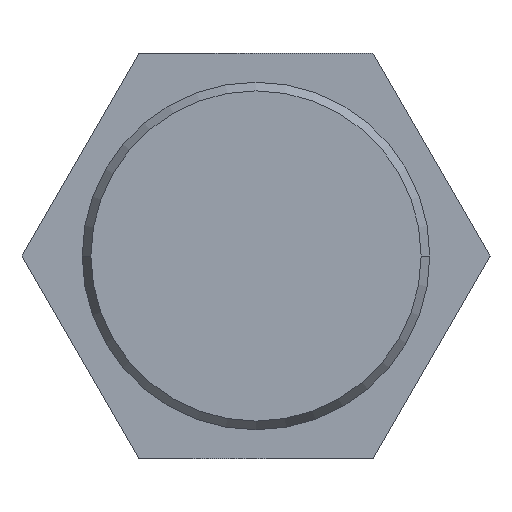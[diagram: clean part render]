
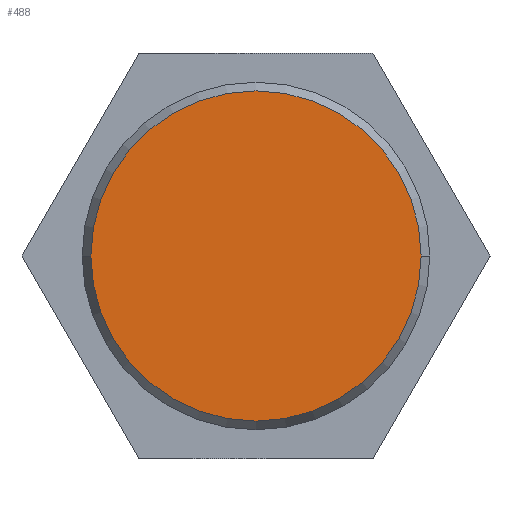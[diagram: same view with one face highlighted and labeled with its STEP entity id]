
A CAD part, left-side view. The second image highlights one B-rep face of the part: STEP entity #488.
In plain terms, the highlighted planar face has unit normal (-1, 0, 0).
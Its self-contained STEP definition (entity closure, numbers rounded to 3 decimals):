
#17 = DIRECTION ( 'NONE',  ( 1., 0., 0. ) ) ;
#18 = CARTESIAN_POINT ( 'NONE',  ( 0., 0., 0. ) ) ;
#46 = CIRCLE ( 'NONE', #173, 11. ) ;
#69 = PLANE ( 'NONE',  #225 ) ;
#73 = DIRECTION ( 'NONE',  ( -1., 0., 0. ) ) ;
#90 = VERTEX_POINT ( 'NONE', #644 ) ;
#154 = CARTESIAN_POINT ( 'NONE',  ( 0., 0., 0. ) ) ;
#155 = CARTESIAN_POINT ( 'NONE',  ( 0., 0., 0. ) ) ;
#167 = EDGE_CURVE ( 'NONE', #90, #639, #168, .T. ) ;
#168 = CIRCLE ( 'NONE', #182, 11. ) ;
#173 = AXIS2_PLACEMENT_3D ( 'NONE', #155, #17, #254 ) ;
#182 = AXIS2_PLACEMENT_3D ( 'NONE', #154, #560, #244 ) ;
#188 = EDGE_CURVE ( 'NONE', #639, #90, #46, .T. ) ;
#217 = EDGE_LOOP ( 'NONE', ( #390, #457 ) ) ;
#225 = AXIS2_PLACEMENT_3D ( 'NONE', #18, #73, #497 ) ;
#244 = DIRECTION ( 'NONE',  ( 0., 1., 0. ) ) ;
#254 = DIRECTION ( 'NONE',  ( 0., 1., 0. ) ) ;
#345 = CARTESIAN_POINT ( 'NONE',  ( 0., -11., 0. ) ) ;
#390 = ORIENTED_EDGE ( 'NONE', *, *, #167, .F. ) ;
#457 = ORIENTED_EDGE ( 'NONE', *, *, #188, .F. ) ;
#488 = ADVANCED_FACE ( 'NONE', ( #542 ), #69, .T. ) ;
#497 = DIRECTION ( 'NONE',  ( 0., -1., 0. ) ) ;
#542 = FACE_OUTER_BOUND ( 'NONE', #217, .T. ) ;
#560 = DIRECTION ( 'NONE',  ( 1., 0., 0. ) ) ;
#639 = VERTEX_POINT ( 'NONE', #345 ) ;
#644 = CARTESIAN_POINT ( 'NONE',  ( 0., 11., 0. ) ) ;
